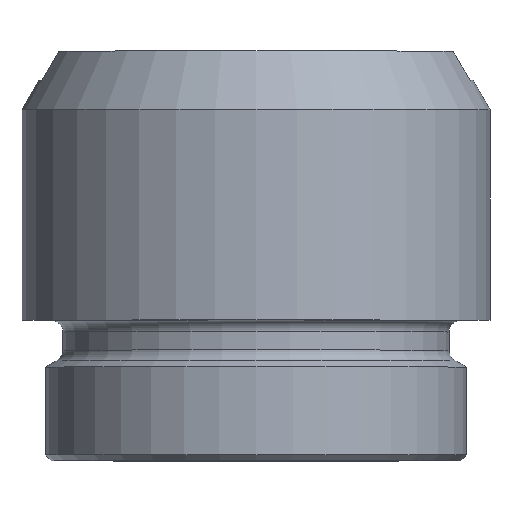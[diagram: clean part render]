
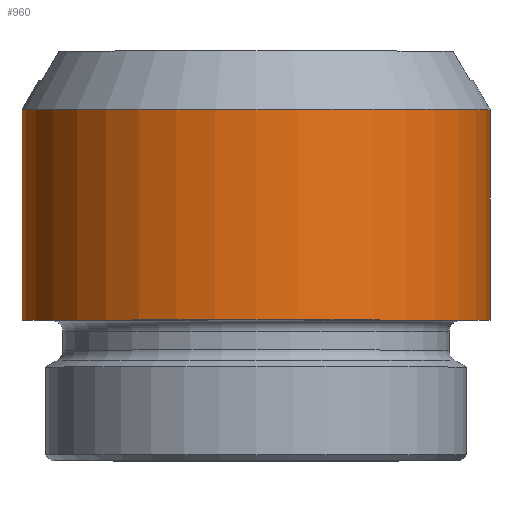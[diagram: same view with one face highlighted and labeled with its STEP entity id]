
A CAD part, top view. The second image highlights one B-rep face of the part: STEP entity #960.
In plain terms, the highlighted cylindrical face has radius 20 mm (diameter 40 mm), a partial arc.
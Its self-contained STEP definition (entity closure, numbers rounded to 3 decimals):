
#291=CARTESIAN_POINT('',(0.,30.,0.));
#292=DIRECTION('',(0.,-1.,0.));
#293=DIRECTION('',(1.,0.,0.));
#294=AXIS2_PLACEMENT_3D('',#291,#292,#293);
#326=DIRECTION('',(0.,1.,0.));
#327=VECTOR('',#326,18.);
#328=CARTESIAN_POINT('',(-20.,12.,0.));
#329=LINE('',#328,#327);
#333=DIRECTION('',(0.,1.,0.));
#334=VECTOR('',#333,18.);
#335=CARTESIAN_POINT('',(20.,12.,0.));
#336=LINE('',#335,#334);
#340=CARTESIAN_POINT('',(0.,12.,0.));
#341=DIRECTION('',(0.,-1.,0.));
#342=DIRECTION('',(1.,0.,0.));
#343=AXIS2_PLACEMENT_3D('',#340,#341,#342);
#704=CARTESIAN_POINT('',(20.,12.,0.));
#705=CARTESIAN_POINT('',(20.,30.,0.));
#706=VERTEX_POINT('',#704);
#707=VERTEX_POINT('',#705);
#708=CARTESIAN_POINT('',(-20.,12.,0.));
#709=CARTESIAN_POINT('',(-20.,30.,0.));
#710=VERTEX_POINT('',#708);
#711=VERTEX_POINT('',#709);
#946=CARTESIAN_POINT('',(0.,21.,0.));
#947=DIRECTION('',(0.,1.,0.));
#948=DIRECTION('',(1.,0.,0.));
#949=AXIS2_PLACEMENT_3D('',#946,#947,#948);
#950=CYLINDRICAL_SURFACE('',#949,20.);
#952=ORIENTED_EDGE('',*,*,#951,.T.);
#954=ORIENTED_EDGE('',*,*,#953,.T.);
#955=ORIENTED_EDGE('',*,*,#936,.F.);
#957=ORIENTED_EDGE('',*,*,#956,.F.);
#958=EDGE_LOOP('',(#952,#954,#955,#957));
#959=FACE_OUTER_BOUND('',#958,.F.);
#295=CIRCLE('',#294,20.);
#344=CIRCLE('',#343,20.);
#936=EDGE_CURVE('',#707,#711,#295,.T.);
#951=EDGE_CURVE('',#706,#710,#344,.T.);
#953=EDGE_CURVE('',#710,#711,#329,.T.);
#956=EDGE_CURVE('',#706,#707,#336,.T.);
#960=ADVANCED_FACE('',(#959),#950,.T.);
